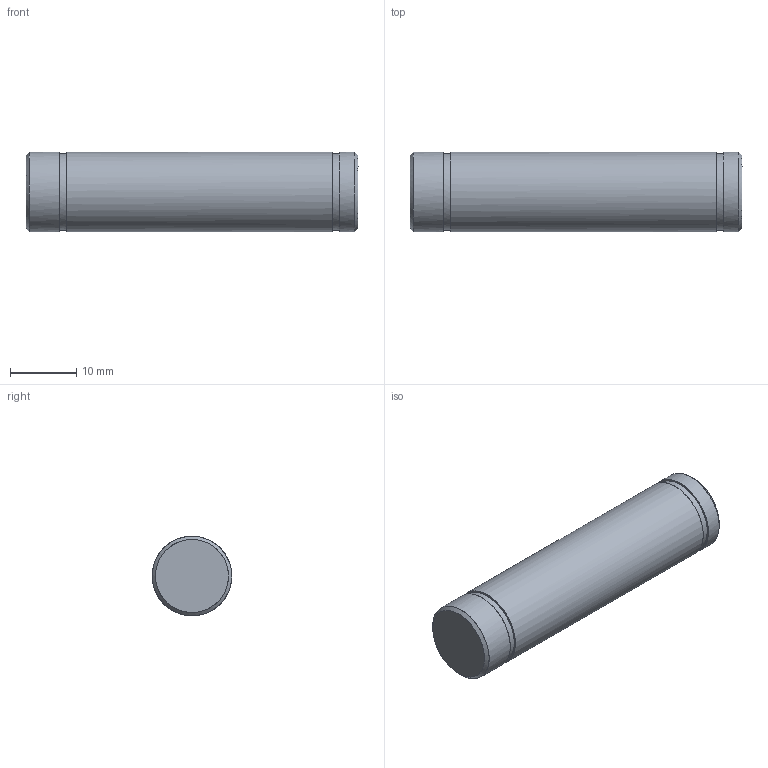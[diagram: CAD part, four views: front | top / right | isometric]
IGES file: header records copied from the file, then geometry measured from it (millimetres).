
Start section: File produced by SOLID-CONCEP (Trim Surfaces - Entity 144)
Global section: file name: 50.igs; native system: SOLID-CONCEPT V.5.xx; preprocessor: SOLID-CONCEPT-IGES-OUT v2.00; date: 100220.125902; units: millimetre
Bounding box: 50 x 12 x 12 mm (x, y, z)
Surface area: 2121.9 mm2 (no closed solid volume)
Topology: 0 solids, 0 shells, 13 faces, 68 edges, 54 vertices
Faces by surface type: revolution 7, bspline 6
